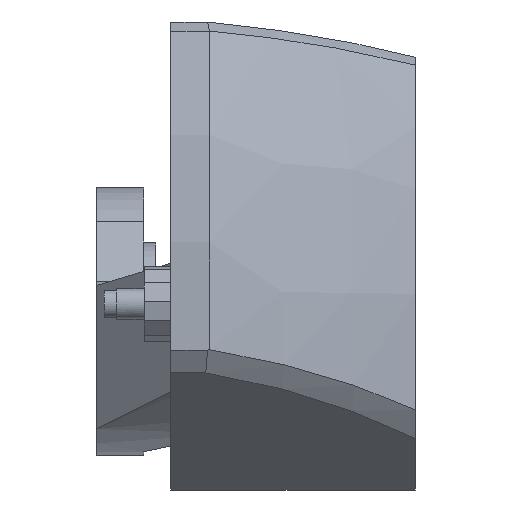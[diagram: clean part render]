
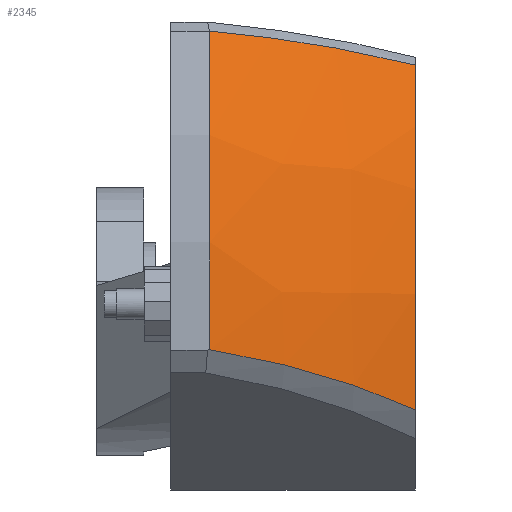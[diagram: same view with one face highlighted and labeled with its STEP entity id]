
A CAD part, left-side view. The second image highlights one B-rep face of the part: STEP entity #2345.
In plain terms, the highlighted free-form (B-spline) face has degree [3, 3] with [4, 4] control points.
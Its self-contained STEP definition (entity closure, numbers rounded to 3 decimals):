
#78 = CARTESIAN_POINT ( 'NONE',  ( -413.797, -293.961, 598.854 ) ) ;
#81 = CARTESIAN_POINT ( 'NONE',  ( -404.451, -305.5, 593.548 ) ) ;
#132 = CARTESIAN_POINT ( 'NONE',  ( -448.185, -241.514, 618.391 ) ) ;
#161 = CARTESIAN_POINT ( 'NONE',  ( -447.251, -164.741, 900.26 ) ) ;
#173 = CARTESIAN_POINT ( 'NONE',  ( -455.826, -226.699, 622.736 ) ) ;
#181 = CARTESIAN_POINT ( 'NONE',  ( -422.828, -281.649, 603.984 ) ) ;
#182 = CARTESIAN_POINT ( 'NONE',  ( -440.022, -255.426, 613.753 ) ) ;
#186 = CARTESIAN_POINT ( 'NONE',  ( -462.672, -212.905, 626.63 ) ) ;
#189 = CARTESIAN_POINT ( 'NONE',  ( -455.785, -226.778, 622.713 ) ) ;
#192 = CARTESIAN_POINT ( 'NONE',  ( -455.792, -226.766, 622.716 ) ) ;
#195 = CARTESIAN_POINT ( 'NONE',  ( -455.806, -226.739, 622.724 ) ) ;
#204 = CARTESIAN_POINT ( 'NONE',  ( -455.971, -226.418, 622.818 ) ) ;
#209 = CARTESIAN_POINT ( 'NONE',  ( -456.164, -226.043, 622.928 ) ) ;
#211 = CARTESIAN_POINT ( 'NONE',  ( -490.996, -137.298, 642.746 ) ) ;
#214 = CARTESIAN_POINT ( 'NONE',  ( -441.323, -182.544, 898.104 ) ) ;
#218 = CARTESIAN_POINT ( 'NONE',  ( -455.875, -226.606, 622.764 ) ) ;
#221 = CARTESIAN_POINT ( 'NONE',  ( -456.549, -225.293, 623.147 ) ) ;
#227 = CARTESIAN_POINT ( 'NONE',  ( -457.316, -223.789, 623.583 ) ) ;
#231 = CARTESIAN_POINT ( 'NONE',  ( -458.839, -220.768, 624.449 ) ) ;
#233 = CARTESIAN_POINT ( 'NONE',  ( -460.125, -218.157, 625.181 ) ) ;
#234 = CARTESIAN_POINT ( 'NONE',  ( -445.488, -170.291, 899.618 ) ) ;
#240 = CARTESIAN_POINT ( 'NONE',  ( -464.335, -209.365, 627.576 ) ) ;
#241 = CARTESIAN_POINT ( 'NONE',  ( -469.216, -198.63, 630.354 ) ) ;
#242 = CARTESIAN_POINT ( 'NONE',  ( -472.325, -191.318, 632.123 ) ) ;
#244 = CARTESIAN_POINT ( 'NONE',  ( -490.996, -137.298, 642.746 ) ) ;
#263 = CARTESIAN_POINT ( 'NONE',  ( -486.456, -153.398, 640.162 ) ) ;
#271 = CARTESIAN_POINT ( 'NONE',  ( -481.181, -168.93, 637.163 ) ) ;
#288 = CARTESIAN_POINT ( 'NONE',  ( -425.536, -221.98, 892.361 ) ) ;
#327 = CARTESIAN_POINT ( 'NONE',  ( -424.586, -224.094, 892.015 ) ) ;
#409 = ORIENTED_EDGE ( 'NONE', *, *, #1909, .T. ) ;
#416 = CARTESIAN_POINT ( 'NONE',  ( -378.538, -305.5, 875.263 ) ) ;
#465 = CARTESIAN_POINT ( 'NONE',  ( -385.775, -295.051, 877.896 ) ) ;
#520 = ORIENTED_EDGE ( 'NONE', *, *, #2095, .F. ) ;
#563 = CARTESIAN_POINT ( 'NONE',  ( -378.538, -305.5, 875.263 ) ) ;
#571 = FACE_OUTER_BOUND ( 'NONE', #665, .T. ) ;
#600 = CARTESIAN_POINT ( 'NONE',  ( -455.052, -137.298, 903.093 ) ) ;
#665 = EDGE_LOOP ( 'NONE', ( #409, #1862, #520, #2234 ) ) ;
#691 = CARTESIAN_POINT ( 'NONE',  ( -409.229, -255.465, 886.428 ) ) ;
#699 = CARTESIAN_POINT ( 'NONE',  ( -392.272, -284.836, 880.259 ) ) ;
#755 = CARTESIAN_POINT ( 'NONE',  ( -404., -265.04, 884.526 ) ) ;
#781 = VERTEX_POINT ( 'NONE', #600 ) ;
#805 = CARTESIAN_POINT ( 'NONE',  ( -428.296, -215.732, 893.365 ) ) ;
#1019 = CIRCLE ( 'NONE', #1091, 692. ) ;
#1077 = VERTEX_POINT ( 'NONE', #416 ) ;
#1091 = AXIS2_PLACEMENT_3D ( 'NONE', #2284, #2282, #2276 ) ;
#1263 =( BOUNDED_SURFACE ( )  B_SPLINE_SURFACE ( 3, 3, ( 
 ( #2348, #2299, #2493, #2435 ),
 ( #2244, #2305, #2235, #2163 ),
 ( #2226, #2200, #2170, #2122 ),
 ( #2110, #2136, #2113, #2085 ) ),
 .UNSPECIFIED., .F., .F., .F. ) 
 B_SPLINE_SURFACE_WITH_KNOTS ( ( 4, 4 ),
 ( 4, 4 ),
 ( 0., 1. ),
 ( 0., 1. ),
 .UNSPECIFIED. ) 
 GEOMETRIC_REPRESENTATION_ITEM ( )  RATIONAL_B_SPLINE_SURFACE ( (
 ( 1., 0.981, 0.981, 1.),
 ( 0.989, 0.97, 0.97, 0.989),
 ( 0.989, 0.97, 0.97, 0.989),
 ( 1., 0.981, 0.981, 1.) ) ) 
 REPRESENTATION_ITEM ( '' )  SURFACE ( )  );
#1273 = CARTESIAN_POINT ( 'NONE',  ( -455.052, -137.298, 903.093 ) ) ;
#1293 = CARTESIAN_POINT ( 'NONE',  ( -453.58, -142.964, 902.561 ) ) ;
#1324 = CARTESIAN_POINT ( 'NONE',  ( -450.261, -154.829, 901.354 ) ) ;
#1339 = CARTESIAN_POINT ( 'NONE',  ( -451.508, -150.468, 901.808 ) ) ;
#1455 = EDGE_CURVE ( 'NONE', #2316, #1824, #1706, .T. ) ;
#1498 = CARTESIAN_POINT ( 'NONE',  ( -434.726, -200.13, 895.704 ) ) ;
#1621 =( BOUNDED_CURVE ( )  B_SPLINE_CURVE ( 3, ( #1821, #1717, #1829, #1834 ),
 .UNSPECIFIED., .F., .T. ) 
 B_SPLINE_CURVE_WITH_KNOTS ( ( 4, 4 ),
 ( 0., 1. ),
 .UNSPECIFIED. ) 
 CURVE ( )  GEOMETRIC_REPRESENTATION_ITEM ( )  RATIONAL_B_SPLINE_CURVE ( ( 1., 0.982, 0.982, 1. ) ) 
 REPRESENTATION_ITEM ( '' )  );
#1663 = CARTESIAN_POINT ( 'NONE',  ( -404.451, -305.5, 593.548 ) ) ;
#1706 = B_SPLINE_CURVE_WITH_KNOTS ( 'NONE', 3,
 ( #244, #263, #271, #242, #241, #240, #186, #233, #231, #227, #221, #209, #204, #218, #173, #195, #192, #189, #132, #182, #181, #78, #81 ),
 .UNSPECIFIED., .F., .F.,
 ( 4, 2, 2, 2, 1, 1, 1, 1, 1, 1, 1, 2, 2, 2, 4 ),
 ( 0., 0.25, 0.375, 0.438, 0.469, 0.484, 0.492, 0.496, 0.498, 0.499, 0.5, 0.5, 0.5, 0.75, 1. ),
 .UNSPECIFIED. ) ;
#1717 = CARTESIAN_POINT ( 'NONE',  ( -418.049, -305.5, 688.624 ) ) ;
#1767 = EDGE_CURVE ( 'NONE', #781, #1077, #1803, .T. ) ;
#1803 = B_SPLINE_CURVE_WITH_KNOTS ( 'NONE', 3,
 ( #1273, #2333, #1293, #1339, #1324, #161, #234, #214, #2293, #1498, #2203, #2212, #805, #288, #327, #2205, #2181, #2077, #2437, #691, #755, #699, #465, #563 ),
 .UNSPECIFIED., .F., .F.,
 ( 4, 2, 2, 2, 2, 2, 2, 2, 2, 2, 2, 4 ),
 ( 0., 0.125, 0.25, 0.375, 0.5, 0.562, 0.625, 0.656, 0.687, 0.75, 0.875, 1. ),
 .UNSPECIFIED. ) ;
#1821 = CARTESIAN_POINT ( 'NONE',  ( -404.451, -305.5, 593.548 ) ) ;
#1824 = VERTEX_POINT ( 'NONE', #1663 ) ;
#1829 = CARTESIAN_POINT ( 'NONE',  ( -409.252, -305.5, 784.264 ) ) ;
#1834 = CARTESIAN_POINT ( 'NONE',  ( -378.538, -305.5, 875.263 ) ) ;
#1862 = ORIENTED_EDGE ( 'NONE', *, *, #1767, .F. ) ;
#1909 = EDGE_CURVE ( 'NONE', #1824, #1077, #1621, .T. ) ;
#2077 = CARTESIAN_POINT ( 'NONE',  ( -418.477, -237.165, 889.793 ) ) ;
#2085 = CARTESIAN_POINT ( 'NONE',  ( -377.442, -305.5, 878.482 ) ) ;
#2095 = EDGE_CURVE ( 'NONE', #2316, #781, #1019, .T. ) ;
#2110 = CARTESIAN_POINT ( 'NONE',  ( -404.204, -305.5, 591.843 ) ) ;
#2113 = CARTESIAN_POINT ( 'NONE',  ( -409.233, -305.5, 785.994 ) ) ;
#2122 = CARTESIAN_POINT ( 'NONE',  ( -412.779, -254.78, 890.629 ) ) ;
#2136 = CARTESIAN_POINT ( 'NONE',  ( -418.324, -305.5, 688.618 ) ) ;
#2163 = CARTESIAN_POINT ( 'NONE',  ( -438.731, -198.073, 899.549 ) ) ;
#2170 = CARTESIAN_POINT ( 'NONE',  ( -446.516, -254.78, 792.48 ) ) ;
#2181 = CARTESIAN_POINT ( 'NONE',  ( -421.609, -230.562, 890.932 ) ) ;
#2200 = CARTESIAN_POINT ( 'NONE',  ( -456.163, -254.78, 689.145 ) ) ;
#2203 = CARTESIAN_POINT ( 'NONE',  ( -433.229, -203.894, 895.159 ) ) ;
#2205 = CARTESIAN_POINT ( 'NONE',  ( -422.623, -228.385, 891.301 ) ) ;
#2212 = CARTESIAN_POINT ( 'NONE',  ( -430.014, -211.695, 893.99 ) ) ;
#2226 = CARTESIAN_POINT ( 'NONE',  ( -441.179, -254.78, 586.448 ) ) ;
#2234 = ORIENTED_EDGE ( 'NONE', *, *, #1455, .T. ) ;
#2235 = CARTESIAN_POINT ( 'NONE',  ( -473.896, -198.073, 797.244 ) ) ;
#2244 = CARTESIAN_POINT ( 'NONE',  ( -468.334, -198.073, 582.486 ) ) ;
#2276 = DIRECTION ( 'NONE',  ( 0., 0., 1. ) ) ;
#2282 = DIRECTION ( 'NONE',  ( 0., 1., 0. ) ) ;
#2284 = CARTESIAN_POINT ( 'NONE',  ( 200., -137.298, 680. ) ) ;
#2293 = CARTESIAN_POINT ( 'NONE',  ( -438.921, -189.247, 897.23 ) ) ;
#2299 = CARTESIAN_POINT ( 'NONE',  ( -500.752, -137.298, 689.767 ) ) ;
#2305 = CARTESIAN_POINT ( 'NONE',  ( -483.953, -198.073, 689.532 ) ) ;
#2316 = VERTEX_POINT ( 'NONE', #211 ) ;
#2333 = CARTESIAN_POINT ( 'NONE',  ( -454.405, -139.822, 902.861 ) ) ;
#2345 = ADVANCED_FACE ( 'NONE', ( #571 ), #1263, .T. ) ;
#2348 = CARTESIAN_POINT ( 'NONE',  ( -484.75, -137.298, 580.091 ) ) ;
#2435 = CARTESIAN_POINT ( 'NONE',  ( -454.42, -137.298, 904.941 ) ) ;
#2437 = CARTESIAN_POINT ( 'NONE',  ( -416.266, -241.669, 888.988 ) ) ;
#2493 = CARTESIAN_POINT ( 'NONE',  ( -490.449, -137.298, 800.124 ) ) ;
